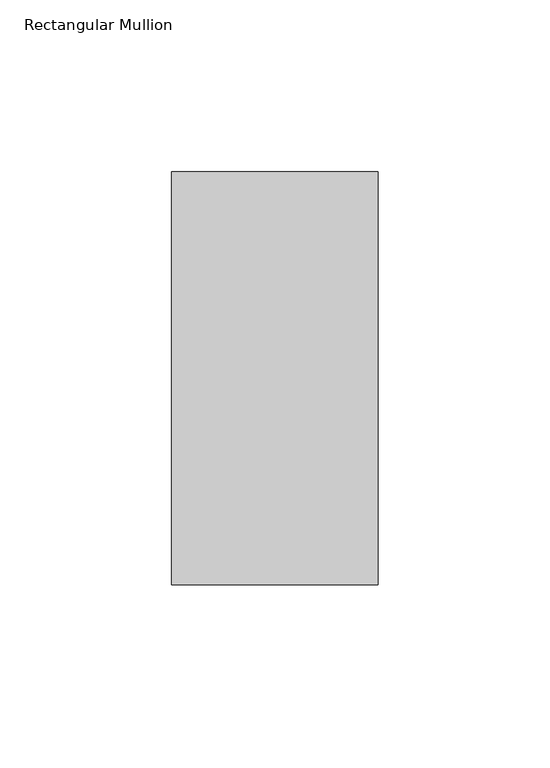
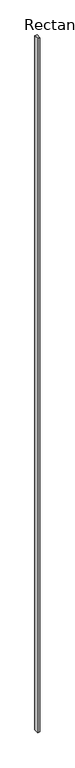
"""IFC4 building model written with IfcOpenShell, lengths in millimetres: member geometry, Rectangular Mullion : Terça."""

from ifc_helpers import new_model, si_unit, frame, origin, place, context, project, spatial, polyline, outline, extrude, source, transform, mapped, element, save


def rectangular_mullion_e24358e8(model_context):
    return source(origin(), model_context, "Body", "SweptSolid", [
        extrude(outline(polyline([(0.0, -120.0), (-60.0, -120.0), (-60.0, 0.0), (0.0, 0.0), (0.0, -120.0)])), frame((0.0, 0.0, -19200.0), z_axis=(0.0, 0.0, 1.0), x_axis=(1.0, 0.0, 0.0)), (0.0, 0.0, 1.0), 19200.0),
    ])


if __name__ == "__main__":
    model = new_model("IFC4")
    model_context = context("Model", 3, world=origin())
    ifc_project = project(units=[si_unit("LENGTHUNIT", "METRE", prefix="MILLI")], contexts=[model_context])
    site = spatial("IfcSite", under=ifc_project)
    building = spatial("IfcBuilding", under=site)
    placement = place(None, origin())
    rectangular_mullion_shape = rectangular_mullion_e24358e8(model_context)
    element("IfcMember", 1, ObjectType="Rectangular Mullion : Terça", at=placement, inside=building, context=model_context, shape_type="MappedRepresentation", body=[
        mapped(rectangular_mullion_shape, transform((0.0, 0.0, 0.0), x_axis=(1.0, 0.0, 0.0), y_axis=(0.0, 1.0, 0.0), z_axis=(0.0, 0.0, 1.0))),
    ])
    save(model, "model.ifc")
